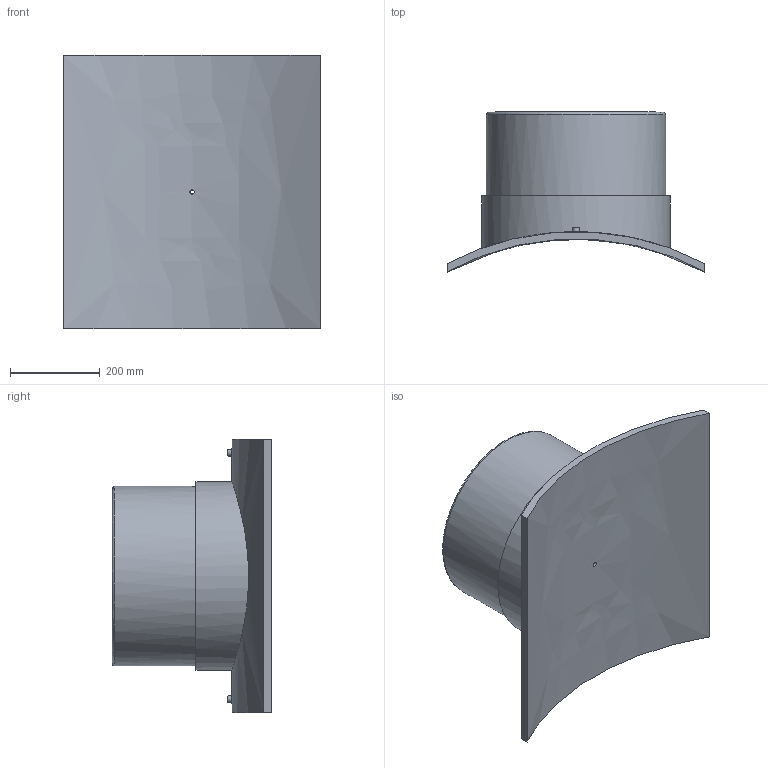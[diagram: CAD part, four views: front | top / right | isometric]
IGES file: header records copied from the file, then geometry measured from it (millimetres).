
Global section: file name: 4958031200400T; native system: Autodesk Inventor 2019; preprocessor: unknown; author: KIM; date: 20240404.114819; units: millimetre
Bounding box: 574 x 356.09 x 610 mm (x, y, z)
Volume: 19782333.6 mm3; surface area: 1420069.2 mm2
Topology: 1 solids, 1 shells, 29 faces, 60 edges, 43 vertices
Faces by surface type: bspline 29
